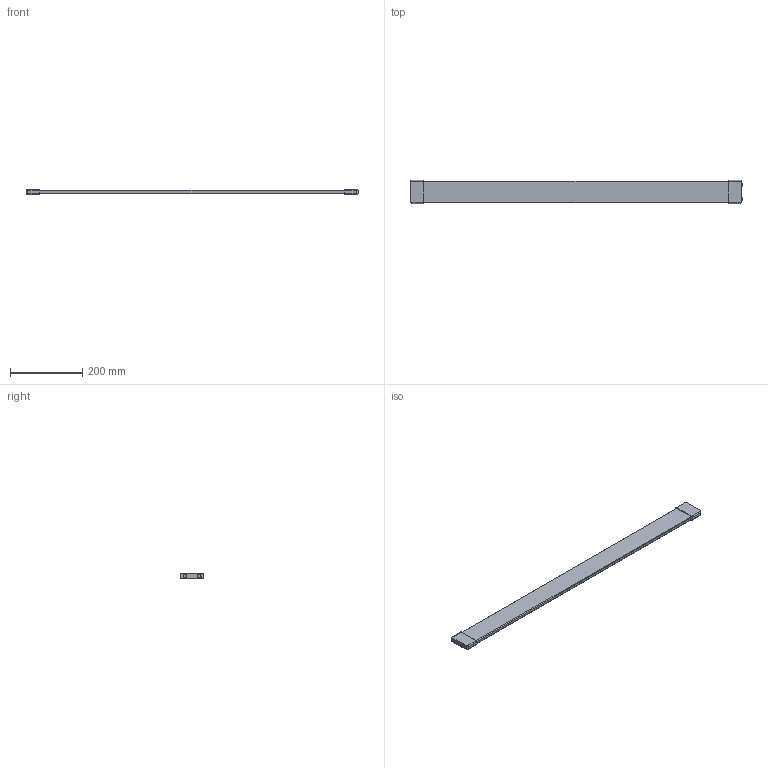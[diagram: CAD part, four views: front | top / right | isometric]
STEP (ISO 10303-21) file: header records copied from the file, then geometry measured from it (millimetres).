
FILE_DESCRIPTION (( 'STEP AP214' ), '1' );
FILE_NAME ('Schubkastenteiler_PROKAB_1000.step', '2009-11-04T15:16:55', ( 'Waldinger Reinhard' ), ( 'Grass GmbH' ), 'SwSTEP 2.0', 'SolidWorks 2009', '' );
FILE_SCHEMA (( 'AUTOMOTIVE_DESIGN' ));
Length unit declared in the file: millimetre
Products named in the file (1): Schubkastenteiler_PROKAB_1000
Bounding box: 917.9 x 63.7 x 13 mm (x, y, z)
Volume: 551758.6 mm3; surface area: 127358.6 mm2
Topology: 1 solids, 1 shells, 92 faces, 208 edges, 124 vertices
Faces by surface type: cylinder 38, torus 28, plane 22, bspline 4
Entity records: 3210 total; most frequent: CARTESIAN_POINT 1069, DIRECTION 486, ORIENTED_EDGE 416, EDGE_CURVE 208, AXIS2_PLACEMENT_3D 205, VERTEX_POINT 124, CIRCLE 116, EDGE_LOOP 98
